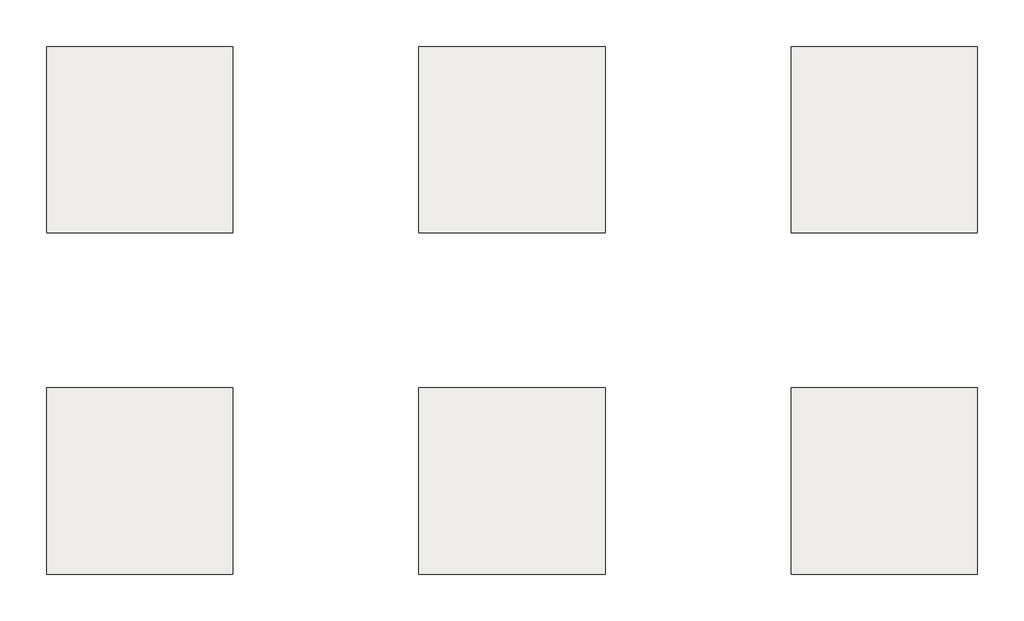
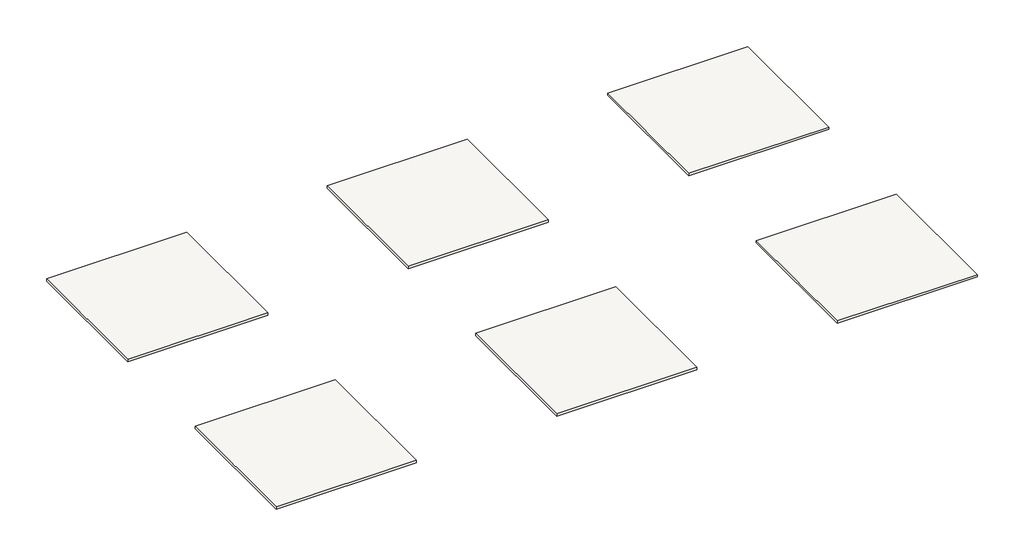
# One storey: 6 slabs.
"""IFC4 building model written with IfcOpenShell, lengths in millimetres."""

from ifc_helpers import new_model, si_unit, frame, origin, place, context, project, spatial, polyline, outline, extrude, element, save

model = new_model("IFC4")

# Units and contexts
model_context = context("Model", 3, world=origin())
ifc_project = project(units=[si_unit("LENGTHUNIT", "METRE", prefix="MILLI")], contexts=[model_context])

# Site, building, storey
site = spatial("IfcSite", under=ifc_project)
building = spatial("IfcBuilding", under=site)
storey = spatial("IfcBuildingStorey", under=building, Name="LAVERTON FLOOR TILES", Elevation=0.0)

# Slabs
placement = place(None, origin())
element("IfcSlab", 1, ObjectType="VIVES LAVERTON ARENA 60x60", at=placement, inside=storey, context=model_context, shape_type="SweptSolid", body=[
    extrude(outline(polyline([(-1597.6740217, -3114.9550563), (-1597.6740217, -3714.9550563), (-2197.6740217, -3714.9550563), (-2197.6740217, -3114.9550563), (-1597.6740217, -3114.9550563)])), frame((0.0, 0.0, -10.0), z_axis=(0.0, 0.0, 1.0), x_axis=(1.0, 0.0, 0.0)), (0.0, 0.0, 1.0), 10.0),
])
element("IfcSlab", 2, ObjectType="VIVES LAVERTON NIEVE 60x60", at=placement, inside=storey, context=model_context, shape_type="SweptSolid", body=[
    extrude(outline(polyline([(-397.6740217, -3114.9550563), (-397.6740217, -3714.9550563), (-997.6740217, -3714.9550563), (-997.6740217, -3114.9550563), (-397.6740217, -3114.9550563)])), frame((0.0, 0.0, -10.0), z_axis=(0.0, 0.0, 1.0), x_axis=(1.0, 0.0, 0.0)), (0.0, 0.0, 1.0), 10.0),
])
element("IfcSlab", 3, ObjectType="VIVES LAVERTON NATURAL 60x60", at=placement, inside=storey, context=model_context, shape_type="SweptSolid", body=[
    extrude(outline(polyline([(802.3259783, -3114.9550563), (802.3259783, -3714.9550563), (202.3259783, -3714.9550563), (202.3259783, -3114.9550563), (802.3259783, -3114.9550563)])), frame((0.0, 0.0, -10.0), z_axis=(0.0, 0.0, 1.0), x_axis=(1.0, 0.0, 0.0)), (0.0, 0.0, 1.0), 10.0),
])
element("IfcSlab", 4, ObjectType="VIVES LAVERTON BEIGE 60x60", at=placement, inside=storey, context=model_context, shape_type="SweptSolid", body=[
    extrude(outline(polyline([(-1597.6740217, -4214.9550563), (-1597.6740217, -4814.9550563), (-2197.6740217, -4814.9550563), (-2197.6740217, -4214.9550563), (-1597.6740217, -4214.9550563)])), frame((0.0, 0.0, -10.0), z_axis=(0.0, 0.0, 1.0), x_axis=(1.0, 0.0, 0.0)), (0.0, 0.0, 1.0), 10.0),
])
element("IfcSlab", 5, ObjectType="VIVES LAVERTON GRIS 60x60", at=placement, inside=storey, context=model_context, shape_type="SweptSolid", body=[
    extrude(outline(polyline([(-397.6740217, -4214.9550563), (-397.6740217, -4814.9550563), (-997.6740217, -4814.9550563), (-997.6740217, -4214.9550563), (-397.6740217, -4214.9550563)])), frame((0.0, 0.0, -10.0), z_axis=(0.0, 0.0, 1.0), x_axis=(1.0, 0.0, 0.0)), (0.0, 0.0, 1.0), 10.0),
])
element("IfcSlab", 6, ObjectType="VIVES LAVERTON GRAFITO 60x60", at=placement, inside=storey, context=model_context, shape_type="SweptSolid", body=[
    extrude(outline(polyline([(802.3259783, -4214.9550563), (802.3259783, -4814.9550563), (202.3259783, -4814.9550563), (202.3259783, -4214.9550563), (802.3259783, -4214.9550563)])), frame((0.0, 0.0, -10.0), z_axis=(0.0, 0.0, 1.0), x_axis=(1.0, 0.0, 0.0)), (0.0, 0.0, 1.0), 10.0),
])

save(model, "model.ifc")
